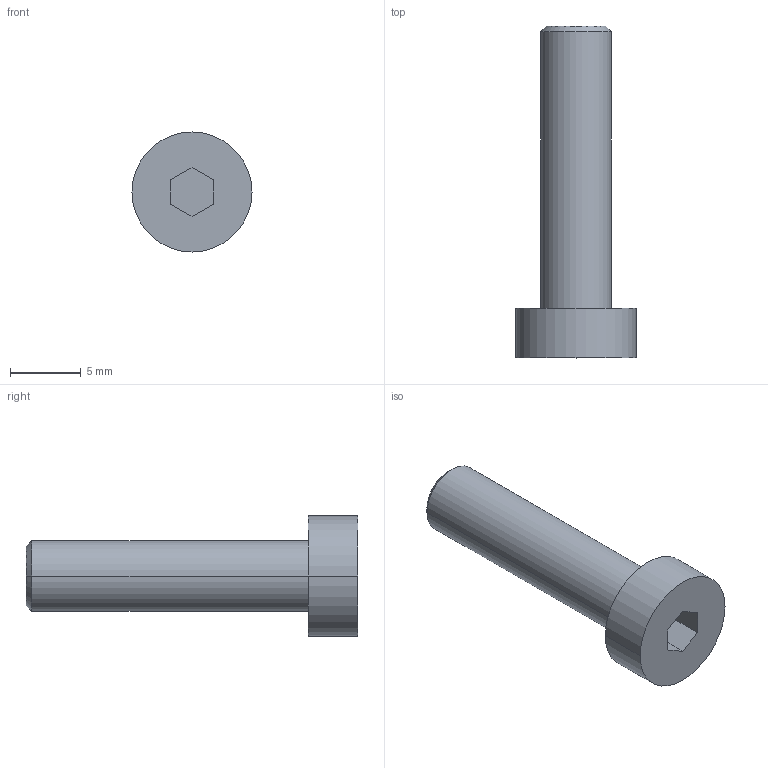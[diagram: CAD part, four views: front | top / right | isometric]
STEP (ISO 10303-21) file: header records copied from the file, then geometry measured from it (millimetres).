
FILE_DESCRIPTION((''),'2;1');
FILE_NAME('VTCEI0520','2002-12-27T',('Lipro doo'),('Lipro d.o.o.'),'PRO/ENGINEER BY PARAMETRIC TECHNOLOGY CORPORATION, 2001150','PRO/ENGINEER BY PARAMETRIC TECHNOLOGY CORPORATION, 2001150','');
FILE_SCHEMA(('CONFIG_CONTROL_DESIGN'));
Length unit declared in the file: millimetre
Products named in the file (1): VTCEI0520
Bounding box: 8.5 x 23.5 x 8.5 mm (x, y, z)
Volume: 569.1 mm3; surface area: 809.2 mm2
Topology: 1 solids, 2 shells, 18 faces, 40 edges, 26 vertices
Faces by surface type: plane 10, cylinder 6, cone 2
Entity records: 546 total; most frequent: DIRECTION 92, CARTESIAN_POINT 85, ORIENTED_EDGE 76, EDGE_CURVE 40, AXIS2_PLACEMENT_3D 33, VECTOR 26, LINE 26, VERTEX_POINT 26
